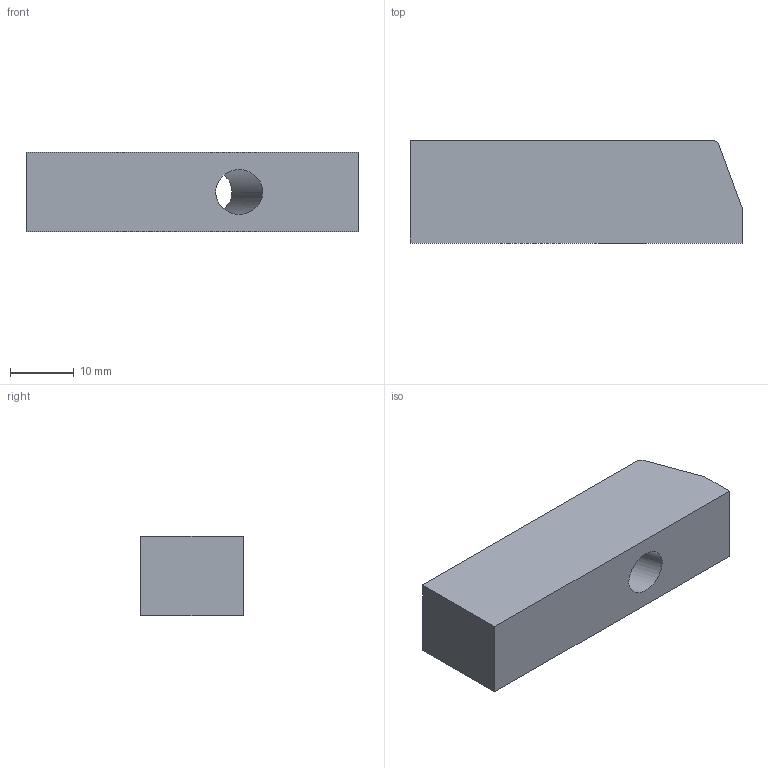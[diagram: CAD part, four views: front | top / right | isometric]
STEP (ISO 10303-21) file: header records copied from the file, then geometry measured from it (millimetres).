
FILE_DESCRIPTION (( 'STEP AP214' ), '1' );
FILE_NAME ('MC121652.STEP', '2013-06-10T09:02:22', ( '' ), ( '' ), 'SwSTEP 2.0', 'SolidWorks 2011', '' );
FILE_SCHEMA (( 'AUTOMOTIVE_DESIGN' ));
Length unit declared in the file: millimetre
Products named in the file (2): MC121652
Assembly tree (1 placements, depth 2):
  MC121652
    MC121652
Bounding box: 52 x 16 x 12.5 mm (x, y, z)
Volume: 9405.8 mm3; surface area: 3618 mm2
Topology: 1 solids, 1 shells, 18 faces, 43 edges, 28 vertices
Faces by surface type: plane 10, cylinder 6, bspline 2
Entity records: 689 total; most frequent: CARTESIAN_POINT 217, DIRECTION 87, ORIENTED_EDGE 86, EDGE_CURVE 43, AXIS2_PLACEMENT_3D 30, VERTEX_POINT 28, LINE 27, VECTOR 27
